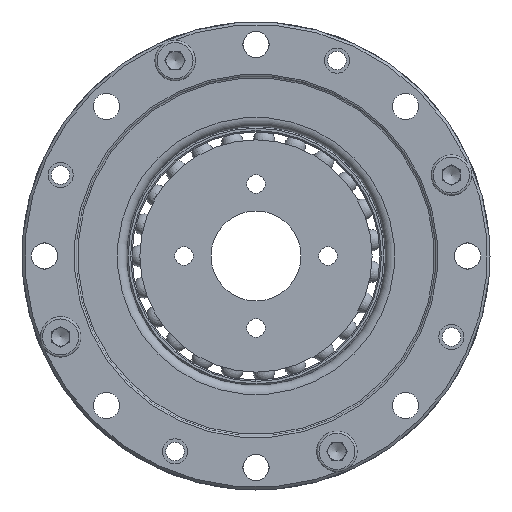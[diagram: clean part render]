
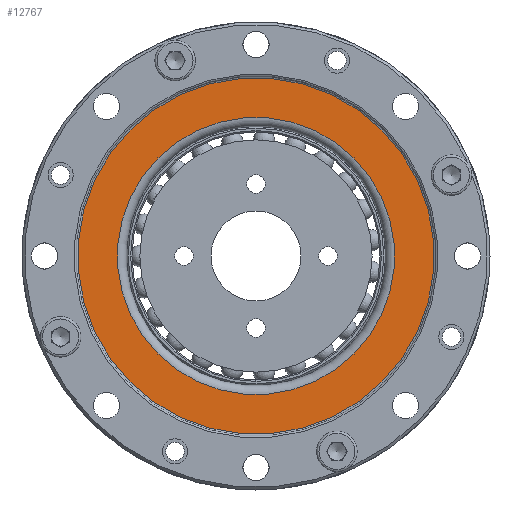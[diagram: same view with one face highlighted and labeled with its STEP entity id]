
A CAD part, left-side view. The second image highlights one B-rep face of the part: STEP entity #12767.
In plain terms, the highlighted planar face has unit normal (-1, 0, 0).
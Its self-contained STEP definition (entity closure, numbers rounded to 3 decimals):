
#979 = EDGE_LOOP ( 'NONE', ( #14251 ) ) ;
#1146 = AXIS2_PLACEMENT_3D ( 'NONE', #15140, #7955, #14046 ) ;
#2159 = DIRECTION ( 'NONE',  ( 1., 0., 0. ) ) ;
#2301 = AXIS2_PLACEMENT_3D ( 'NONE', #14051, #2159, #13985 ) ;
#2828 = DIRECTION ( 'NONE',  ( 1., 0., 0. ) ) ;
#3804 = EDGE_LOOP ( 'NONE', ( #7675 ) ) ;
#3810 = CARTESIAN_POINT ( 'NONE',  ( -3.654, -10.889, -10.889 ) ) ;
#3830 = CARTESIAN_POINT ( 'NONE',  ( -3.654, 0., 0. ) ) ;
#3838 = CARTESIAN_POINT ( 'NONE',  ( -3.654, -14.001, -14.001 ) ) ;
#4462 = FACE_OUTER_BOUND ( 'NONE', #3804, .T. ) ;
#7675 = ORIENTED_EDGE ( 'NONE', *, *, #9474, .F. ) ;
#7955 = DIRECTION ( 'NONE',  ( -1., 0., 0. ) ) ;
#8175 = PLANE ( 'NONE',  #1146 ) ;
#9474 = EDGE_CURVE ( 'NONE', #14431, #14431, #12895, .T. ) ;
#10837 = VERTEX_POINT ( 'NONE', #3810 ) ;
#12166 = AXIS2_PLACEMENT_3D ( 'NONE', #3830, #2828, #13185 ) ;
#12767 = ADVANCED_FACE ( 'NONE', ( #13980, #4462 ), #8175, .T. ) ;
#12895 = CIRCLE ( 'NONE', #12166, 19.8 ) ;
#13185 = DIRECTION ( 'NONE',  ( 0., -0.707, -0.707 ) ) ;
#13970 = EDGE_CURVE ( 'NONE', #10837, #10837, #14651, .T. ) ;
#13980 = FACE_BOUND ( 'NONE', #979, .T. ) ;
#13985 = DIRECTION ( 'NONE',  ( 0., -0.707, -0.707 ) ) ;
#14046 = DIRECTION ( 'NONE',  ( 0., 0.707, 0.707 ) ) ;
#14051 = CARTESIAN_POINT ( 'NONE',  ( -3.654, 0., 0. ) ) ;
#14251 = ORIENTED_EDGE ( 'NONE', *, *, #13970, .T. ) ;
#14431 = VERTEX_POINT ( 'NONE', #3838 ) ;
#14651 = CIRCLE ( 'NONE', #2301, 15.4 ) ;
#15140 = CARTESIAN_POINT ( 'NONE',  ( -3.654, 10.889, -10.889 ) ) ;
